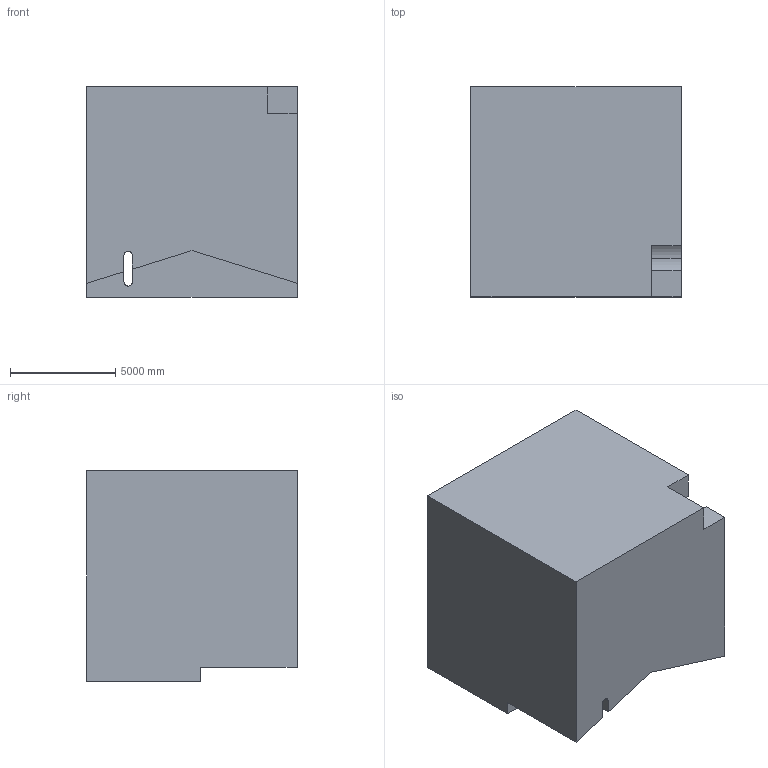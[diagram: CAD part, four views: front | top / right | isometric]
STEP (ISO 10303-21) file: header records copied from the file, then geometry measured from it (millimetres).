
FILE_DESCRIPTION (( 'STEP AP203' ), '1' );
FILE_NAME ('52.STEP', '2022-09-01T11:47:37', ( 'user' ), ( '' ), 'SwSTEP 2.0', 'SolidWorks 2021', '' );
FILE_SCHEMA (( 'CONFIG_CONTROL_DESIGN' ));
Length unit declared in the file: centimetre
Products named in the file (1): 52
Bounding box: 10000 x 10000 x 10000 mm (x, y, z)
Volume: 906330973654.2 mm3; surface area: 677943536.3 mm2
Topology: 1 solids, 1 shells, 31 faces, 90 edges, 60 vertices
Faces by surface type: plane 25, cylinder 6
Entity records: 1101 total; most frequent: CARTESIAN_POINT 200, ORIENTED_EDGE 180, DIRECTION 160, EDGE_CURVE 90, VECTOR 72, LINE 72, VERTEX_POINT 60, AXIS2_PLACEMENT_3D 44
